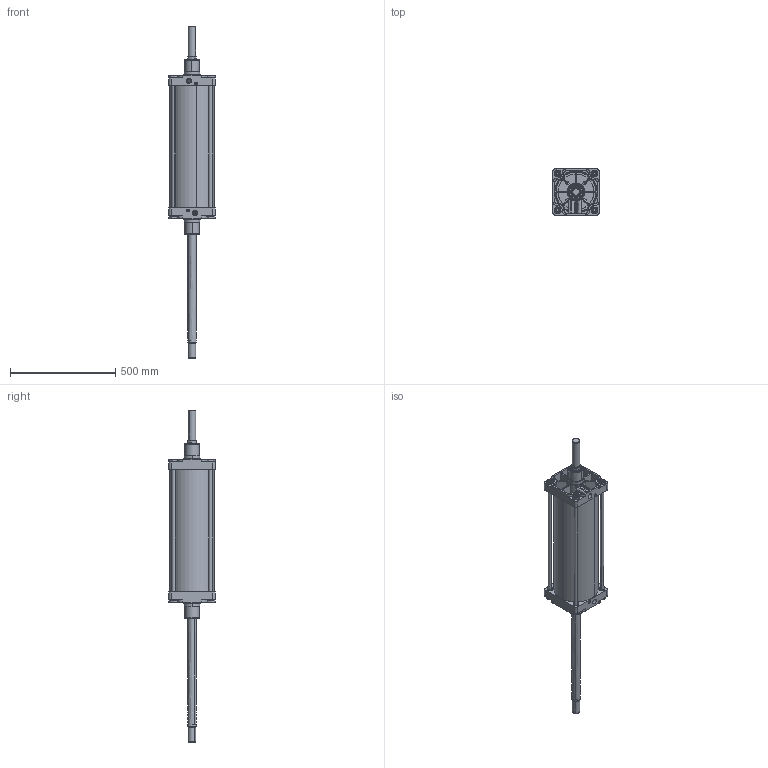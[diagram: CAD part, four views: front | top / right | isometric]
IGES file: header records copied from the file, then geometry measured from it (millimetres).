
Start section: SolidWorks IGES file using analytic representation for surfaces
Global section: file name: D:\ARICA 3D ÇÝZÝMLER\3D IGES\SC ÇÝFT MÝLLÝ STROK AYARLI\SC 200\SC200X500STROK-AYARLI-CYLÝNDER.IGS; native system: SolidWorks 2013; preprocessor: SolidWorks 2013; author: user; date: 150402.155853; units: millimetre
Bounding box: 220 x 220 x 1578 mm (x, y, z)
Surface area: 1945742.2 mm2 (no closed solid volume)
Topology: 0 solids, 0 shells, 1754 faces, 27364 edges, 27364 vertices
Faces by surface type: revolution 947, bspline 807
